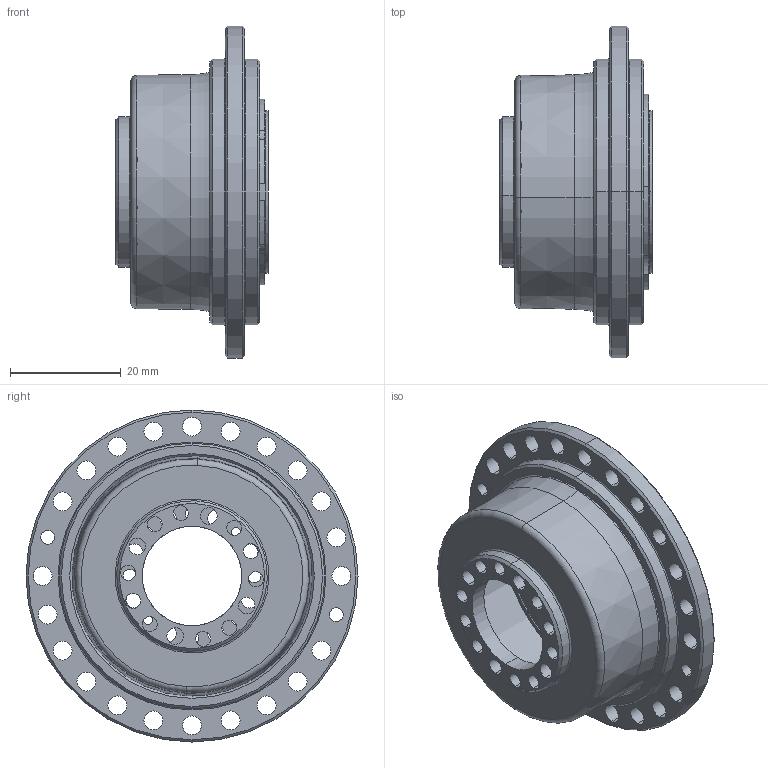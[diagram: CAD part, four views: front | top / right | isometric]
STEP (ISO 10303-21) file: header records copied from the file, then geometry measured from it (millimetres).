
FILE_DESCRIPTION (( 'STEP AP203' ), '1' );
FILE_NAME ('LCS-17-XXX-PL-I.STEP', '2017-06-24T07:30:48', ( 'Windows 蚚誧' ), ( 'Users' ), 'SwSTEP 2.0', 'SolidWorks 2013', '' );
FILE_SCHEMA (( 'CONFIG_CONTROL_DESIGN' ));
Length unit declared in the file: millimetre
Products named in the file (8): LCS-17-XXX-P02L; LCS-17-XXX-P01L; LCS-17-XXX-P03L-I; LCS-17-XXX-PL-I; RZC-17内外圈+钢球; RZC-17悵厥殤; 柔性轴承RZC-17; 轴径 30 （改）_GB_CONNECTING_PIECE_RINGS_CSB 30
Assembly tree (7 placements, depth 3):
  LCS-17-XXX-PL-I
    LCS-17-XXX-P03L-I
    柔性轴承RZC-17
      RZC-17内外圈+钢球
      RZC-17悵厥殤
    轴径 30 （改）_GB_CONNECTING_PIECE_RINGS_CSB 30
    LCS-17-XXX-P02L
    LCS-17-XXX-P01L
Bounding box: 27.5 x 60 x 60 mm (x, y, z)
Volume: 13573 mm3; surface area: 24842.8 mm2
Topology: 30 solids, 30 shells, 415 faces, 1123 edges, 731 vertices
Faces by surface type: cylinder 224, plane 71, sphere 46, torus 40, cone 34
Entity records: 13594 total; most frequent: DIRECTION 2558, CARTESIAN_POINT 2096, ORIENTED_EDGE 2016, AXIS2_PLACEMENT_3D 1124, EDGE_CURVE 1008, CIRCLE 698, VERTEX_POINT 662, EDGE_LOOP 548
